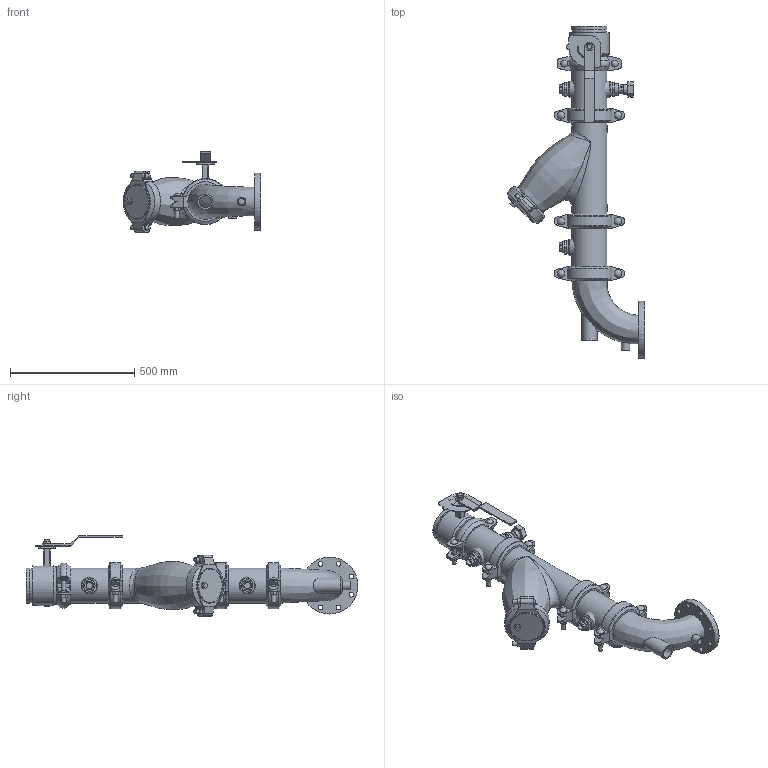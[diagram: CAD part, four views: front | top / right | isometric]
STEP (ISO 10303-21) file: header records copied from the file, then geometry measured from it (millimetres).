
FILE_DESCRIPTION(/* description */ ('VIC SVI PUMP DROP HORZ S/382 (OGSxFLG) (S/924-1.25)','CAx-IF Rec.Pracs.---Representation and Presentation of Product Manufacturing Information (PMI)---4.0---2014-10-13'),/* implementation_level */ '2;1');
FILE_NAME(/* name */ 'C:\Users\Vjadhav\AppData\Roaming\Autodesk\ApplicationPlugins\Victaulic.Temp\A115\Series 382 (OGSxFLG)_924 (1.25)_05.0x04.0 (125x100).stp',/* time_stamp */ '2022-03-17T12:19:02+06:00',/* author */ ('kkamble'),/* organization */ ('Victaulic'),/* preprocessor_version */ 'ST-DEVELOPER v17.2',/* originating_system */ 'Autodesk Inventor 2019',/* authorisation */ '');
FILE_SCHEMA (('AP242_MANAGED_MODEL_BASED_3D_ENGINEERING_MIM_LF { 1 0 10303 442 1 1 4 }'));
Length unit declared in the file: inch
Products named in the file (13): 382_924 (1.25)-05.0x04.0; PIPE-05.0; 107N-05.0; 732-05.0; 732-05.0_1; 07-05.0; 732-05.0_2; PIPE-05.3; 761-05.0; 924-04.0x01.25; 177N-05.0; 923-04.0x0.75; R100F-05.0x04.0
Assembly tree (15 placements, depth 3):
  382_924 (1.25)-05.0x04.0
    PIPE-05.0
    107N-05.0
    732-05.0
      732-05.0_1
      07-05.0
      732-05.0_2
    177N-05.0  x3
    PIPE-05.3
    761-05.0
    924-04.0x01.25
    923-04.0x0.75  x2
    R100F-05.0x04.0
Bounding box: 552.45 x 1335.09 x 323.41 mm (x, y, z)
Volume: 10156956.9 mm3; surface area: 2286305.3 mm2
Topology: 14 solids, 18 shells, 888 faces, 2288 edges, 1525 vertices
Faces by surface type: plane 495, cylinder 296, bspline 30, torus 30, cone 27, sphere 10
Full cylindrical faces by diameter (mm): 4.826 x10, 8.636 x4, 15.875 x8, 17.78 x6, 19.05 x10, 21.336 x1, 22.86 x1, 25.4 x3, 26.67 x4, 27.381 x2, 30.48 x6, 34.29 x1, 38.608 x1, 42.164 x1, 45.974 x6, 48.26 x1, 48.514 x1, 55.118 x1, 55.626 x3, 60.96 x1, 102.26 x1, 117.602 x1, 127.356 x1, 127.584 x1, 128.194 x4, 128.6 x4, 134.95 x1, 137.033 x11, 141.3 x26, 160.02 x1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
Entity records: 25886 total; most frequent: CARTESIAN_POINT 8423, DIRECTION 3538, ORIENTED_EDGE 3312, EDGE_CURVE 1656, AXIS2_PLACEMENT_3D 1346, VERTEX_POINT 1109, LINE 846, VECTOR 846
